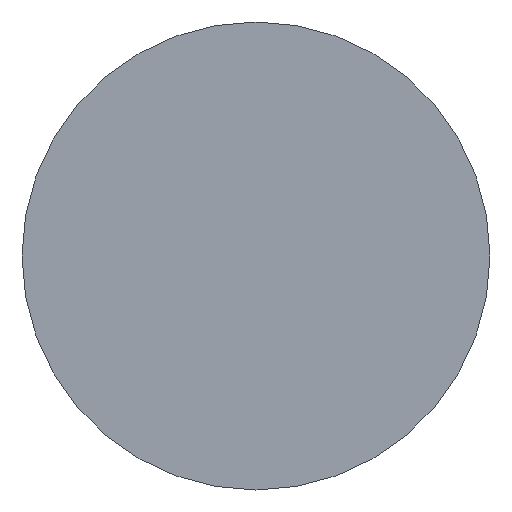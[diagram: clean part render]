
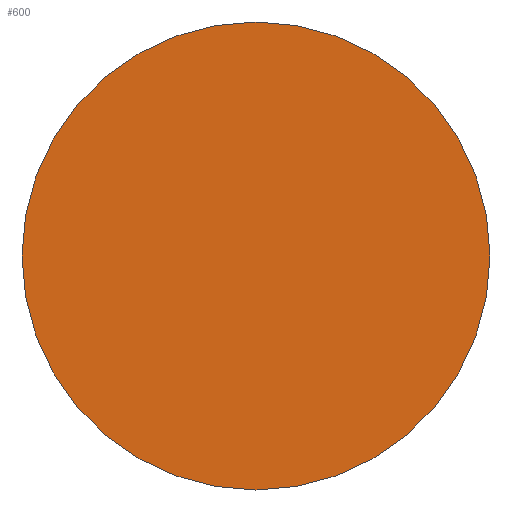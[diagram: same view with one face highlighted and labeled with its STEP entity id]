
A CAD part, left-side view. The second image highlights one B-rep face of the part: STEP entity #600.
In plain terms, the highlighted planar face has unit normal (-1, 0, 0).
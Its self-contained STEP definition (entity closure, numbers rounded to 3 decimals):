
#62 = DIRECTION ( 'NONE',  ( -1., 0., 0. ) ) ;
#76 = CARTESIAN_POINT ( 'NONE',  ( -100.574, -38.677, 66.32 ) ) ;
#79 = AXIS2_PLACEMENT_3D ( 'NONE', #76, #179, #288 ) ;
#81 = CARTESIAN_POINT ( 'NONE',  ( -100.574, -27.677, 66.32 ) ) ;
#97 = ORIENTED_EDGE ( 'NONE', *, *, #371, .T. ) ;
#101 = FACE_OUTER_BOUND ( 'NONE', #146, .T. ) ;
#122 = DIRECTION ( 'NONE',  ( 0., -1., 0. ) ) ;
#146 = EDGE_LOOP ( 'NONE', ( #317, #97 ) ) ;
#162 = CARTESIAN_POINT ( 'NONE',  ( -100.574, -38.677, 66.32 ) ) ;
#175 = AXIS2_PLACEMENT_3D ( 'NONE', #162, #62, #122 ) ;
#179 = DIRECTION ( 'NONE',  ( -1., 0., 0. ) ) ;
#196 = CARTESIAN_POINT ( 'NONE',  ( -100.574, -38.677, 66.32 ) ) ;
#270 = AXIS2_PLACEMENT_3D ( 'NONE', #196, #400, #505 ) ;
#278 = VERTEX_POINT ( 'NONE', #576 ) ;
#288 = DIRECTION ( 'NONE',  ( 0., -1., 0. ) ) ;
#311 = EDGE_CURVE ( 'NONE', #347, #278, #528, .T. ) ;
#317 = ORIENTED_EDGE ( 'NONE', *, *, #311, .T. ) ;
#347 = VERTEX_POINT ( 'NONE', #81 ) ;
#371 = EDGE_CURVE ( 'NONE', #278, #347, #613, .T. ) ;
#400 = DIRECTION ( 'NONE',  ( -1., 0., 0. ) ) ;
#505 = DIRECTION ( 'NONE',  ( 0., -1., 0. ) ) ;
#528 = CIRCLE ( 'NONE', #175, 11. ) ;
#561 = PLANE ( 'NONE',  #270 ) ;
#576 = CARTESIAN_POINT ( 'NONE',  ( -100.574, -49.677, 66.32 ) ) ;
#600 = ADVANCED_FACE ( 'NONE', ( #101 ), #561, .T. ) ;
#613 = CIRCLE ( 'NONE', #79, 11. ) ;
